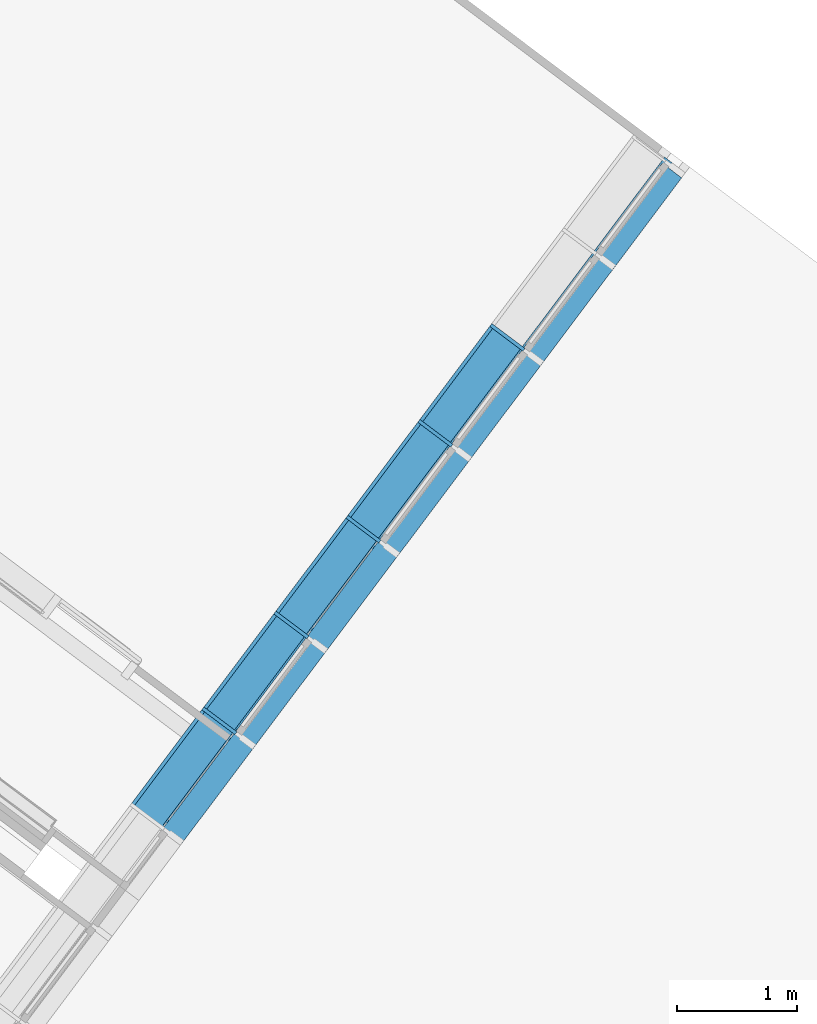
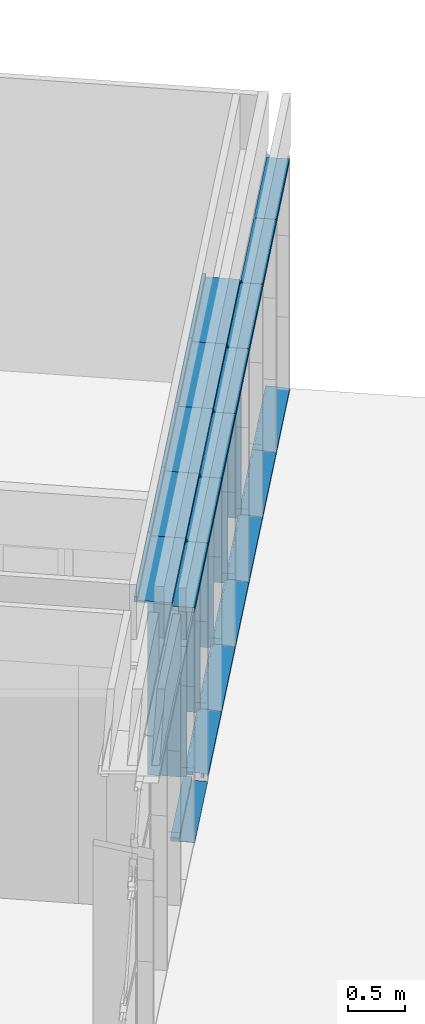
# One storey, part 73 of 243: 24 members, 2 elements without a shape of their own.
"""IFC2X3 building model written with IfcOpenShell, lengths in metres."""

from ifc_helpers import new_model, entity, si_unit, converted_unit, derived_unit, direction, frame, frame_2d, origin, place, context, subcontext, project, spatial, polyline, circle_curve, parameter, trimmed, segment, composite_curve, rectangle, outline, extrude, source, transform, mapped, material, type_object, type_shapes, element, aggregate, save


model = new_model("IFC2X3")

# Units and contexts
model_context = context("Model", 3, precision=1e-05, world=origin(), true_north=direction((6.123031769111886e-17, 1.0)))
body_context = subcontext(model_context, "Body", "Model", "MODEL_VIEW")
ifc_project = project(units=[si_unit("LENGTHUNIT", "METRE"), si_unit("AREAUNIT", "SQUARE_METRE"), si_unit("VOLUMEUNIT", "CUBIC_METRE"), converted_unit("PLANEANGLEUNIT", "DEGREE", entity("IfcRatioMeasure", 0.017453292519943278), si_unit("PLANEANGLEUNIT", "RADIAN"), dimensions=[0, 0, 0, 0, 0, 0, 0]), si_unit("MASSUNIT", "GRAM", prefix="KILO"), derived_unit("MASSDENSITYUNIT", [(si_unit("MASSUNIT", "GRAM", prefix="KILO"), 1), (si_unit("LENGTHUNIT", "METRE"), -3)]), derived_unit("IONCONCENTRATIONUNIT", [(si_unit("MASSUNIT", "GRAM", prefix="KILO"), 1), (si_unit("LENGTHUNIT", "METRE"), -3)]), derived_unit("MOMENTOFINERTIAUNIT", [(si_unit("LENGTHUNIT", "METRE"), 4)]), si_unit("TIMEUNIT", "SECOND"), si_unit("FREQUENCYUNIT", "HERTZ"), si_unit("THERMODYNAMICTEMPERATUREUNIT", "DEGREE_CELSIUS"), derived_unit("THERMALTRANSMITTANCEUNIT", [(si_unit("MASSUNIT", "GRAM", prefix="KILO"), 1), (si_unit("THERMODYNAMICTEMPERATUREUNIT", "KELVIN"), -1), (si_unit("TIMEUNIT", "SECOND"), -3)]), derived_unit("THERMALCONDUCTANCEUNIT", [(si_unit("MASSUNIT", "GRAM", prefix="KILO"), 1), (si_unit("THERMODYNAMICTEMPERATUREUNIT", "KELVIN"), -1), (si_unit("TIMEUNIT", "SECOND"), -3), (si_unit("LENGTHUNIT", "METRE"), 1)]), derived_unit("VOLUMETRICFLOWRATEUNIT", [(si_unit("LENGTHUNIT", "METRE"), 3), (si_unit("TIMEUNIT", "SECOND"), -1)]), derived_unit("MASSFLOWRATEUNIT", [(si_unit("MASSUNIT", "GRAM", prefix="KILO"), 1), (si_unit("TIMEUNIT", "SECOND"), -1)]), derived_unit("ROTATIONALFREQUENCYUNIT", [(si_unit("TIMEUNIT", "SECOND"), -1)]), si_unit("ELECTRICCURRENTUNIT", "AMPERE"), si_unit("ELECTRICVOLTAGEUNIT", "VOLT"), si_unit("POWERUNIT", "WATT"), si_unit("FORCEUNIT", "NEWTON", prefix="KILO"), si_unit("ILLUMINANCEUNIT", "LUX"), si_unit("LUMINOUSFLUXUNIT", "LUMEN"), si_unit("LUMINOUSINTENSITYUNIT", "CANDELA"), derived_unit("USERDEFINED", [(si_unit("MASSUNIT", "GRAM", prefix="KILO"), -1), (si_unit("LENGTHUNIT", "METRE"), -2), (si_unit("TIMEUNIT", "SECOND"), 3), (si_unit("LUMINOUSFLUXUNIT", "LUMEN"), 1)]), derived_unit("USERDEFINED", [(si_unit("MASSUNIT", "GRAM", prefix="KILO"), 1), (si_unit("TIMEUNIT", "SECOND"), -3), (si_unit("LENGTHUNIT", "METRE"), 3), (si_unit("ELECTRICCURRENTUNIT", "AMPERE"), -2)]), derived_unit("SOUNDPOWERUNIT", [(si_unit("MASSUNIT", "GRAM", prefix="KILO"), 1), (si_unit("TIMEUNIT", "SECOND"), -3), (si_unit("LENGTHUNIT", "METRE"), 2)]), derived_unit("SOUNDPRESSUREUNIT", [(si_unit("MASSUNIT", "GRAM", prefix="KILO"), 1), (si_unit("LENGTHUNIT", "METRE"), -1), (si_unit("TIMEUNIT", "SECOND"), -2)]), derived_unit("LINEARVELOCITYUNIT", [(si_unit("LENGTHUNIT", "METRE"), 1), (si_unit("TIMEUNIT", "SECOND"), -1)]), si_unit("PRESSUREUNIT", "PASCAL"), derived_unit("USERDEFINED", [(si_unit("MASSUNIT", "GRAM", prefix="KILO"), 1), (si_unit("LENGTHUNIT", "METRE"), -2), (si_unit("TIMEUNIT", "SECOND"), -2)]), derived_unit("LINEARFORCEUNIT", [(si_unit("MASSUNIT", "GRAM", prefix="KILO"), 1), (si_unit("TIMEUNIT", "SECOND"), -2)]), derived_unit("PLANARFORCEUNIT", [(si_unit("MASSUNIT", "GRAM", prefix="KILO"), 1), (si_unit("LENGTHUNIT", "METRE"), -1), (si_unit("TIMEUNIT", "SECOND"), -2)]), derived_unit("SPECIFICHEATCAPACITYUNIT", [(si_unit("THERMODYNAMICTEMPERATUREUNIT", "KELVIN"), -1), (si_unit("LENGTHUNIT", "METRE"), 2), (si_unit("TIMEUNIT", "SECOND"), -2)]), derived_unit("HEATINGVALUEUNIT", [(si_unit("LENGTHUNIT", "METRE"), 2), (si_unit("TIMEUNIT", "SECOND"), -2)]), derived_unit("VAPORPERMEABILITYUNIT", [(si_unit("LENGTHUNIT", "METRE"), -1), (si_unit("TIMEUNIT", "SECOND"), 1)]), derived_unit("DYNAMICVISCOSITYUNIT", [(si_unit("MASSUNIT", "GRAM", prefix="KILO"), 1), (si_unit("TIMEUNIT", "SECOND"), -1), (si_unit("LENGTHUNIT", "METRE"), -1)]), derived_unit("THERMALEXPANSIONCOEFFICIENTUNIT", [(si_unit("THERMODYNAMICTEMPERATUREUNIT", "KELVIN"), -1)]), derived_unit("MODULUSOFELASTICITYUNIT", [(si_unit("MASSUNIT", "GRAM", prefix="KILO"), 1), (si_unit("LENGTHUNIT", "METRE"), -1), (si_unit("TIMEUNIT", "SECOND"), -2)]), derived_unit("ISOTHERMALMOISTURECAPACITYUNIT", [(si_unit("LENGTHUNIT", "METRE"), 3), (si_unit("MASSUNIT", "GRAM", prefix="KILO"), -1)]), derived_unit("MOISTUREDIFFUSIVITYUNIT", [(si_unit("TIMEUNIT", "SECOND"), -1), (si_unit("LENGTHUNIT", "METRE"), 2)])], contexts=[model_context])

# Site, building, storey
site_placement = place(None, frame((0.0, 0.0, 235.0), z_axis=(0.0, 0.0, 1.0), x_axis=(-0.7996477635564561, 0.6004693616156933, 0.0)))
site = spatial("IfcSite", under=ifc_project, at=site_placement, Name="Default", CompositionType="ELEMENT")
building_placement = place(site_placement, origin())
building = spatial("IfcBuilding", under=site, at=building_placement, CompositionType="ELEMENT")
storey_placement = place(building_placement, origin())
storey = spatial("IfcBuildingStorey", under=building, at=storey_placement, Name="P0- Escola", CompositionType="ELEMENT", Elevation=0.0)

# Curtain wall, members
curtain_wall_type_1 = type_object("IfcCurtainWallType", Name="Muro cortina:MC- EXT- MC2", PredefinedType="NOTDEFINED")
curtain_wall_1_placement = place(storey_placement, origin())
curtain_wall_1 = element("IfcCurtainWall", 1, at=curtain_wall_1_placement, inside=storey, type_object=curtain_wall_type_1, Name="Muro cortina:MC- EXT- MC2", ObjectType="Muro cortina:MC- EXT- MC2")
ifc_material_1 = material(Name="_Alumini- T1- Perfil")
member_type_1 = type_object("IfcMemberType", Name="Montante rectangular:MC- Alu- 140x52,5 cm- Fa patis- Superior", PredefinedType="MULLION", material=ifc_material_1)
shared_shape_1 = source(origin(), body_context, "Body", "SweptSolid", [
    extrude(outline(polyline([(-0.11366666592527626, -0.021249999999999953), (0.026333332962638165, -0.021249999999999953), (0.026333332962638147, -0.010000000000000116), (0.0873333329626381, -0.010000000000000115), (0.0873333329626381, 0.03125000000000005), (-0.11366666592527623, 0.031250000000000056), (-0.11366666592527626, -0.021249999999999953)])), frame((-0.031250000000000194, 0.02733333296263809, -0.9374981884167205), z_axis=(0.0, 0.0, 1.0), x_axis=(0.0, -1.0, 0.0)), (0.0, 0.0, 1.0), 0.9374981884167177),
])
type_shapes(member_type_1, [shared_shape_1])
member_1_placement = place(curtain_wall_1_placement, frame((5.885147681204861, -41.92768994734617, 2.525), z_axis=(0.0, -1.0, 0.0), x_axis=(0.0, 0.0, 1.0)))
member_1 = element("IfcMember", 2, at=member_1_placement, type_object=member_type_1, material=ifc_material_1, Name="Montante rectangular:MC- Alu- 140x52,5 cm- Fa patis- Superior", ObjectType="Montante rectangular:MC- Alu- 140x52,5 cm- Fa patis- Superior", context=body_context, shape_type="MappedRepresentation", body=[
    mapped(shared_shape_1, transform((0.0, 0.0, 0.0), scale=1.0)),
])
member_type_2 = type_object("IfcMemberType", Name="Montante rectangular:MC- Alu- 140x52,5 cm- Fa patis- inferior porta reixa", PredefinedType="MULLION", material=ifc_material_1)
shared_shape_2 = source(origin(), body_context, "Body", "SweptSolid", [
    extrude(outline(polyline([(0.02123333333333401, -0.026000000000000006), (0.09753333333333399, -0.026000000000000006), (0.09753333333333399, 0.013999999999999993), (-0.11876666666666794, 0.013999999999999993), (-0.11876666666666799, 0.012000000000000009), (0.021233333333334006, 0.012000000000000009), (0.02123333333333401, -0.026000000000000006)])), frame((-0.01400000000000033, 0.02123333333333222, -0.947499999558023), z_axis=(0.0, 0.0, 1.0), x_axis=(0.0, -1.0, 0.0)), (0.0, 0.0, 1.0), 0.9474999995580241),
])
type_shapes(member_type_2, [shared_shape_2])
member_2_placement = place(curtain_wall_1_placement, frame((5.885147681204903, -35.01644175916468, -0.02), z_axis=(0.0, 1.0, 0.0), x_axis=(0.0, 0.0, -1.0)))
member_2 = element("IfcMember", 3, at=member_2_placement, type_object=member_type_2, material=ifc_material_1, Name="Montante rectangular:MC- Alu- 140x52,5 cm- Fa patis- inferior porta reixa", ObjectType="Montante rectangular:MC- Alu- 140x52,5 cm- Fa patis- inferior porta reixa", context=body_context, shape_type="MappedRepresentation", body=[
    mapped(shared_shape_2, transform((0.0, 0.0, 0.0), scale=1.0)),
])
member_type_3 = type_object("IfcMemberType", Name="Montante rectangular:MC- Alu- 140x52,5 cm- Fa patis- Superior", PredefinedType="MULLION", material=ifc_material_1)
shared_shape_3 = source(origin(), body_context, "Body", "SweptSolid", [
    extrude(outline(polyline([(-0.11366666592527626, -0.021249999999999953), (0.026333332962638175, -0.021249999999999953), (0.026333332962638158, -0.010000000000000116), (0.0873333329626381, -0.010000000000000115), (0.0873333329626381, 0.03125000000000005), (-0.11366666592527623, 0.031250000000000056), (-0.11366666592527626, -0.021249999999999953)])), frame((-0.031250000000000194, 0.0273333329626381, -1.0), z_axis=(0.0, 0.0, 1.0), x_axis=(0.0, -1.0, 0.0)), (0.0, 0.0, 1.0), 0.9999999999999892),
])
type_shapes(member_type_3, [shared_shape_3])
member_3_placement = place(curtain_wall_1_placement, frame((5.885147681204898, -35.990191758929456, 2.525), z_axis=(0.0, -1.0, 0.0), x_axis=(0.0, 0.0, 1.0)))
member_3 = element("IfcMember", 4, at=member_3_placement, type_object=member_type_3, material=ifc_material_1, Name="Montante rectangular:MC- Alu- 140x52,5 cm- Fa patis- Superior", ObjectType="Montante rectangular:MC- Alu- 140x52,5 cm- Fa patis- Superior", context=body_context, shape_type="MappedRepresentation", body=[
    mapped(shared_shape_3, transform((0.0, 0.0, 0.0), scale=1.0)),
])
member_4_placement = place(curtain_wall_1_placement, frame((5.8851476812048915, -36.99019175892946, 2.525), z_axis=(0.0, -1.0, 0.0), x_axis=(0.0, 0.0, 1.0)))
member_4 = element("IfcMember", 5, at=member_4_placement, type_object=member_type_3, material=ifc_material_1, Name="Montante rectangular:MC- Alu- 140x52,5 cm- Fa patis- Superior", ObjectType="Montante rectangular:MC- Alu- 140x52,5 cm- Fa patis- Superior", context=body_context, shape_type="MappedRepresentation", body=[
    mapped(shared_shape_3, transform((0.0, 0.0, 0.0), scale=1.0)),
])
member_5_placement = place(curtain_wall_1_placement, frame((5.885147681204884, -37.990191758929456, 2.525), z_axis=(0.0, -1.0, 0.0), x_axis=(0.0, 0.0, 1.0)))
member_5 = element("IfcMember", 6, at=member_5_placement, type_object=member_type_3, material=ifc_material_1, Name="Montante rectangular:MC- Alu- 140x52,5 cm- Fa patis- Superior", ObjectType="Montante rectangular:MC- Alu- 140x52,5 cm- Fa patis- Superior", context=body_context, shape_type="MappedRepresentation", body=[
    mapped(shared_shape_3, transform((0.0, 0.0, 0.0), scale=1.0)),
])
member_6_placement = place(curtain_wall_1_placement, frame((5.885147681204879, -38.990191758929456, 2.525), z_axis=(0.0, -1.0, 0.0), x_axis=(0.0, 0.0, 1.0)))
member_6 = element("IfcMember", 7, at=member_6_placement, type_object=member_type_3, material=ifc_material_1, Name="Montante rectangular:MC- Alu- 140x52,5 cm- Fa patis- Superior", ObjectType="Montante rectangular:MC- Alu- 140x52,5 cm- Fa patis- Superior", context=body_context, shape_type="MappedRepresentation", body=[
    mapped(shared_shape_3, transform((0.0, 0.0, 0.0), scale=1.0)),
])
member_7_placement = place(curtain_wall_1_placement, frame((5.885147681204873, -39.99019175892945, 2.525), z_axis=(0.0, -1.0, 0.0), x_axis=(0.0, 0.0, 1.0)))
member_7 = element("IfcMember", 8, at=member_7_placement, type_object=member_type_3, material=ifc_material_1, Name="Montante rectangular:MC- Alu- 140x52,5 cm- Fa patis- Superior", ObjectType="Montante rectangular:MC- Alu- 140x52,5 cm- Fa patis- Superior", context=body_context, shape_type="MappedRepresentation", body=[
    mapped(shared_shape_3, transform((0.0, 0.0, 0.0), scale=1.0)),
])
member_8_placement = place(curtain_wall_1_placement, frame((5.8851476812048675, -40.99019175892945, 2.525), z_axis=(0.0, -1.0, 0.0), x_axis=(0.0, 0.0, 1.0)))
member_8 = element("IfcMember", 9, at=member_8_placement, type_object=member_type_3, material=ifc_material_1, Name="Montante rectangular:MC- Alu- 140x52,5 cm- Fa patis- Superior", ObjectType="Montante rectangular:MC- Alu- 140x52,5 cm- Fa patis- Superior", context=body_context, shape_type="MappedRepresentation", body=[
    mapped(shared_shape_3, transform((0.0, 0.0, 0.0), scale=1.0)),
])
member_type_4 = type_object("IfcMemberType", Name="Montante rectangular:MC- Alu- 140x52,5 cm- Fa patis- inferior", PredefinedType="MULLION", material=ifc_material_1)
shared_shape_4 = source(origin(), body_context, "Body", "SweptSolid", [
    extrude(outline(composite_curve([segment(polyline([(0.1278672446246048, -0.02586710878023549), (0.14416724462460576, -0.025867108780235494)]), True, "CONTINUOUS"), segment(polyline([(0.14416724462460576, -0.025867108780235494), (0.1441672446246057, 0.009132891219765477)]), True, "CONTINUOUS"), segment(polyline([(0.1441672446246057, 0.009132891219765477), (0.06786724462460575, 0.009132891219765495)]), True, "CONTINUOUS"), segment(polyline([(0.06786724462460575, 0.009132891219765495), (0.06786724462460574, -0.021159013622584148)]), True, "CONTINUOUS"), segment(polyline([(0.06786724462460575, -0.02115901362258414), (-0.030132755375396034, -0.012332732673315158)]), True, "CONTINUOUS"), segment(polyline([(-0.03013275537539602, -0.012332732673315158), (-0.030132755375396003, 0.027132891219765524)]), True, "CONTINUOUS"), segment(polyline([(-0.030132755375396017, 0.02713289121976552), (-0.0021327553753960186, 0.02713289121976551)]), True, "CONTINUOUS"), segment(polyline([(-0.0021327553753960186, 0.027132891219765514), (-0.0021327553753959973, 0.029132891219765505)]), True, "CONTINUOUS"), segment(polyline([(-0.0021327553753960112, 0.029132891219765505), (-0.032132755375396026, 0.029132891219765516)]), True, "CONTINUOUS"), segment(polyline([(-0.032132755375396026, 0.029132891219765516), (-0.03213275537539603, -0.012152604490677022)]), True, "CONTINUOUS"), segment(polyline([(-0.03213275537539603, -0.012152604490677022), (-0.0701327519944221, -0.008730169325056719)]), True, "CONTINUOUS"), segment(polyline([(-0.0701327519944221, -0.008730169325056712), (-0.0701327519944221, 0.005766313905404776)]), True, "CONTINUOUS"), segment(trimmed(circle_curve(frame_2d((-0.0696327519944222, 0.0057663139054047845), x_axis=(-1.0, 0.0)), 0.0004999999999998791), [parameter(269.999999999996)], [parameter(0.0)], True, "PARAMETER"), False, "CONTINUOUS"), segment(polyline([(-0.0696327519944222, 0.00626631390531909), (-0.06213275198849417, 0.006266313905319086)]), True, "CONTINUOUS"), segment(polyline([(-0.06213275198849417, 0.006266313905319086), (-0.06213275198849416, 0.008266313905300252)]), True, "CONTINUOUS"), segment(polyline([(-0.06213275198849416, 0.008266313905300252), (-0.07013275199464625, 0.008266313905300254)]), True, "CONTINUOUS"), segment(trimmed(circle_curve(frame_2d((-0.07013275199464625, 0.006266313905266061), x_axis=(0.0, 1.0)), 0.0020000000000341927), [parameter(0.0)], [parameter(90.00000002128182)], True, "PARAMETER"), True, "CONTINUOUS"), segment(polyline([(-0.07213275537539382, 0.006266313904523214), (-0.07213275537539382, -0.008730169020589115)]), True, "CONTINUOUS"), segment(trimmed(circle_curve(frame_2d((-0.07013275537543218, -0.008730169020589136), x_axis=(-1.0, 0.0)), 0.0019999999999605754), [parameter(0.0)], [parameter(84.85359280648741)], True, "PARAMETER"), True, "CONTINUOUS"), segment(polyline([(-0.07031215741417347, -0.01072210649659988), (0.06786724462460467, -0.023167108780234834)]), True, "CONTINUOUS"), segment(polyline([(0.06786724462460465, -0.023167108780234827), (0.12786724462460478, -0.023167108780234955)]), True, "CONTINUOUS"), segment(polyline([(0.12786724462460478, -0.023167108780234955), (0.1278672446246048, -0.02586710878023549)]), True, "CONTINUOUS")], self_intersect=False)), frame((-0.029132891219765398, 0.06786724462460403, -0.9737499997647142), z_axis=(0.0, 0.0, 1.0), x_axis=(0.0, -1.0, 0.0)), (0.0, 0.0, 1.0), 0.9737499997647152),
])
type_shapes(member_type_4, [shared_shape_4])
member_9_placement = place(curtain_wall_1_placement, frame((5.885147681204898, -36.01644175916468, -0.02), z_axis=(0.0, 1.0, 0.0), x_axis=(0.0, 0.0, -1.0)))
member_9 = element("IfcMember", 10, at=member_9_placement, type_object=member_type_4, material=ifc_material_1, Name="Montante rectangular:MC- Alu- 140x52,5 cm- Fa patis- inferior", ObjectType="Montante rectangular:MC- Alu- 140x52,5 cm- Fa patis- inferior", context=body_context, shape_type="MappedRepresentation", body=[
    mapped(shared_shape_4, transform((0.0, 0.0, 0.0), scale=1.0)),
])
member_type_5 = type_object("IfcMemberType", Name="Montante rectangular:MC- Alu- 140x52,5 cm- Fa patis- inferior", PredefinedType="MULLION", material=ifc_material_1)
shared_shape_5 = source(origin(), body_context, "Body", "SweptSolid", [
    extrude(outline(composite_curve([segment(polyline([(0.1278672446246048, -0.02586710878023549), (0.14416724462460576, -0.025867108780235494)]), True, "CONTINUOUS"), segment(polyline([(0.14416724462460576, -0.025867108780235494), (0.1441672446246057, 0.009132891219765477)]), True, "CONTINUOUS"), segment(polyline([(0.1441672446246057, 0.009132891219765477), (0.06786724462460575, 0.009132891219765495)]), True, "CONTINUOUS"), segment(polyline([(0.06786724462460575, 0.009132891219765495), (0.06786724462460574, -0.021159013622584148)]), True, "CONTINUOUS"), segment(polyline([(0.06786724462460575, -0.02115901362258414), (-0.030132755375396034, -0.012332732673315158)]), True, "CONTINUOUS"), segment(polyline([(-0.03013275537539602, -0.012332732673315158), (-0.030132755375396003, 0.027132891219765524)]), True, "CONTINUOUS"), segment(polyline([(-0.030132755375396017, 0.02713289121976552), (-0.0021327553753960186, 0.02713289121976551)]), True, "CONTINUOUS"), segment(polyline([(-0.0021327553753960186, 0.027132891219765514), (-0.0021327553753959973, 0.029132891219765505)]), True, "CONTINUOUS"), segment(polyline([(-0.0021327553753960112, 0.029132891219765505), (-0.032132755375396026, 0.029132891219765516)]), True, "CONTINUOUS"), segment(polyline([(-0.032132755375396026, 0.029132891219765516), (-0.03213275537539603, -0.012152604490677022)]), True, "CONTINUOUS"), segment(polyline([(-0.03213275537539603, -0.012152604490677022), (-0.0701327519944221, -0.008730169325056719)]), True, "CONTINUOUS"), segment(polyline([(-0.0701327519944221, -0.008730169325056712), (-0.0701327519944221, 0.005766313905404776)]), True, "CONTINUOUS"), segment(trimmed(circle_curve(frame_2d((-0.0696327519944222, 0.0057663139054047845), x_axis=(-1.0, 0.0)), 0.0004999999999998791), [parameter(269.999999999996)], [parameter(0.0)], True, "PARAMETER"), False, "CONTINUOUS"), segment(polyline([(-0.0696327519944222, 0.00626631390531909), (-0.06213275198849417, 0.006266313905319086)]), True, "CONTINUOUS"), segment(polyline([(-0.06213275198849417, 0.006266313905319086), (-0.06213275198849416, 0.008266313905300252)]), True, "CONTINUOUS"), segment(polyline([(-0.06213275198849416, 0.008266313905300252), (-0.07013275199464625, 0.008266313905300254)]), True, "CONTINUOUS"), segment(trimmed(circle_curve(frame_2d((-0.07013275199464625, 0.006266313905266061), x_axis=(0.0, 1.0)), 0.0020000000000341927), [parameter(0.0)], [parameter(90.00000002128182)], True, "PARAMETER"), True, "CONTINUOUS"), segment(polyline([(-0.07213275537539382, 0.006266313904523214), (-0.07213275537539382, -0.008730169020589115)]), True, "CONTINUOUS"), segment(trimmed(circle_curve(frame_2d((-0.07013275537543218, -0.008730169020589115), x_axis=(-1.0, 0.0)), 0.0019999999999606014), [parameter(0.0)], [parameter(84.8535928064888)], True, "PARAMETER"), True, "CONTINUOUS"), segment(polyline([(-0.07031215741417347, -0.01072210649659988), (0.06786724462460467, -0.023167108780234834)]), True, "CONTINUOUS"), segment(polyline([(0.06786724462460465, -0.023167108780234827), (0.12786724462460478, -0.023167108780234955)]), True, "CONTINUOUS"), segment(polyline([(0.12786724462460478, -0.023167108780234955), (0.1278672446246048, -0.02586710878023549)]), True, "CONTINUOUS")], self_intersect=False)), frame((-0.029132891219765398, 0.06786724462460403, -1.0), z_axis=(0.0, 0.0, 1.0), x_axis=(0.0, -1.0, 0.0)), (0.0, 0.0, 1.0), 0.9999999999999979),
])
type_shapes(member_type_5, [shared_shape_5])
member_10_placement = place(curtain_wall_1_placement, frame((5.8851476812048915, -36.99019175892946, -0.02), z_axis=(0.0, 1.0, 0.0), x_axis=(0.0, 0.0, -1.0)))
member_10 = element("IfcMember", 11, at=member_10_placement, type_object=member_type_5, material=ifc_material_1, Name="Montante rectangular:MC- Alu- 140x52,5 cm- Fa patis- inferior", ObjectType="Montante rectangular:MC- Alu- 140x52,5 cm- Fa patis- inferior", context=body_context, shape_type="MappedRepresentation", body=[
    mapped(shared_shape_5, transform((0.0, 0.0, 0.0), scale=1.0)),
])
member_11_placement = place(curtain_wall_1_placement, frame((5.885147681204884, -37.990191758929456, -0.02), z_axis=(0.0, 1.0, 0.0), x_axis=(0.0, 0.0, -1.0)))
member_11 = element("IfcMember", 12, at=member_11_placement, type_object=member_type_5, material=ifc_material_1, Name="Montante rectangular:MC- Alu- 140x52,5 cm- Fa patis- inferior", ObjectType="Montante rectangular:MC- Alu- 140x52,5 cm- Fa patis- inferior", context=body_context, shape_type="MappedRepresentation", body=[
    mapped(shared_shape_5, transform((0.0, 0.0, 0.0), scale=1.0)),
])
member_12_placement = place(curtain_wall_1_placement, frame((5.885147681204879, -38.990191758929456, -0.02), z_axis=(0.0, 1.0, 0.0), x_axis=(0.0, 0.0, -1.0)))
member_12 = element("IfcMember", 13, at=member_12_placement, type_object=member_type_5, material=ifc_material_1, Name="Montante rectangular:MC- Alu- 140x52,5 cm- Fa patis- inferior", ObjectType="Montante rectangular:MC- Alu- 140x52,5 cm- Fa patis- inferior", context=body_context, shape_type="MappedRepresentation", body=[
    mapped(shared_shape_5, transform((0.0, 0.0, 0.0), scale=1.0)),
])
member_13_placement = place(curtain_wall_1_placement, frame((5.885147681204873, -39.99019175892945, -0.02), z_axis=(0.0, 1.0, 0.0), x_axis=(0.0, 0.0, -1.0)))
member_13 = element("IfcMember", 14, at=member_13_placement, type_object=member_type_5, material=ifc_material_1, Name="Montante rectangular:MC- Alu- 140x52,5 cm- Fa patis- inferior", ObjectType="Montante rectangular:MC- Alu- 140x52,5 cm- Fa patis- inferior", context=body_context, shape_type="MappedRepresentation", body=[
    mapped(shared_shape_5, transform((0.0, 0.0, 0.0), scale=1.0)),
])
member_type_6 = type_object("IfcMemberType", Name="Montante rectangular:MC- Alu- 140x52,5 cm- Fa patis- inferior", PredefinedType="MULLION", material=ifc_material_1)
shared_shape_6 = source(origin(), body_context, "Body", "SweptSolid", [
    extrude(outline(composite_curve([segment(polyline([(0.12786724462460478, -0.02586710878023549), (0.14416724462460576, -0.025867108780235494)]), True, "CONTINUOUS"), segment(polyline([(0.14416724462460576, -0.025867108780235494), (0.14416724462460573, 0.009132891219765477)]), True, "CONTINUOUS"), segment(polyline([(0.14416724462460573, 0.009132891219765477), (0.06786724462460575, 0.009132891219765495)]), True, "CONTINUOUS"), segment(polyline([(0.06786724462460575, 0.009132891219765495), (0.06786724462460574, -0.021159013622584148)]), True, "CONTINUOUS"), segment(polyline([(0.06786724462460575, -0.02115901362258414), (-0.03013275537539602, -0.012332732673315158)]), True, "CONTINUOUS"), segment(polyline([(-0.030132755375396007, -0.012332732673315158), (-0.030132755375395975, 0.027132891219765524)]), True, "CONTINUOUS"), segment(polyline([(-0.030132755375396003, 0.02713289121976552), (-0.0021327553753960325, 0.02713289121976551)]), True, "CONTINUOUS"), segment(polyline([(-0.0021327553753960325, 0.027132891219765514), (-0.002132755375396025, 0.029132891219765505)]), True, "CONTINUOUS"), segment(polyline([(-0.002132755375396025, 0.029132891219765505), (-0.03213275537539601, 0.029132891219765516)]), True, "CONTINUOUS"), segment(polyline([(-0.03213275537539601, 0.029132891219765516), (-0.03213275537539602, -0.012152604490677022)]), True, "CONTINUOUS"), segment(polyline([(-0.03213275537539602, -0.012152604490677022), (-0.07013275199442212, -0.008730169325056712)]), True, "CONTINUOUS"), segment(polyline([(-0.07013275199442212, -0.008730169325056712), (-0.07013275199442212, 0.005766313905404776)]), True, "CONTINUOUS"), segment(trimmed(circle_curve(frame_2d((-0.0696327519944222, 0.005766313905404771), x_axis=(-1.0, 0.0)), 0.0004999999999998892), [parameter(269.99999999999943)], [parameter(0.0)], True, "PARAMETER"), False, "CONTINUOUS"), segment(polyline([(-0.0696327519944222, 0.00626631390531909), (-0.06213275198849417, 0.006266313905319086)]), True, "CONTINUOUS"), segment(polyline([(-0.06213275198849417, 0.006266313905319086), (-0.06213275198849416, 0.008266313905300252)]), True, "CONTINUOUS"), segment(polyline([(-0.06213275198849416, 0.008266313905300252), (-0.07013275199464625, 0.008266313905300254)]), True, "CONTINUOUS"), segment(trimmed(circle_curve(frame_2d((-0.07013275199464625, 0.00626631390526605), x_axis=(0.0, 1.0)), 0.002000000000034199), [parameter(0.0)], [parameter(90.00000002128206)], True, "PARAMETER"), True, "CONTINUOUS"), segment(polyline([(-0.07213275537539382, 0.006266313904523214), (-0.07213275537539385, -0.008730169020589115)]), True, "CONTINUOUS"), segment(trimmed(circle_curve(frame_2d((-0.07013275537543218, -0.008730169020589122), x_axis=(-1.0, 0.0)), 0.0019999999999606), [parameter(0.0)], [parameter(84.85359280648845)], True, "PARAMETER"), True, "CONTINUOUS"), segment(polyline([(-0.0703121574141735, -0.01072210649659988), (0.0678672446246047, -0.023167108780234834)]), True, "CONTINUOUS"), segment(polyline([(0.06786724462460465, -0.023167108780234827), (0.12786724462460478, -0.023167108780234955)]), True, "CONTINUOUS"), segment(polyline([(0.12786724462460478, -0.023167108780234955), (0.12786724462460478, -0.02586710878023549)]), True, "CONTINUOUS")], self_intersect=False)), frame((-0.029132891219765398, 0.06786724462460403, -0.9899981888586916), z_axis=(0.0, 0.0, 1.0), x_axis=(0.0, -1.0, 0.0)), (0.0, 0.0, 1.0), 0.9899981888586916),
])
type_shapes(member_type_6, [shared_shape_6])
member_14_placement = place(curtain_wall_1_placement, frame((5.8851476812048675, -40.99019175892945, -0.02), z_axis=(0.0, 1.0, 0.0), x_axis=(0.0, 0.0, -1.0)))
member_14 = element("IfcMember", 15, at=member_14_placement, type_object=member_type_6, material=ifc_material_1, Name="Montante rectangular:MC- Alu- 140x52,5 cm- Fa patis- inferior", ObjectType="Montante rectangular:MC- Alu- 140x52,5 cm- Fa patis- inferior", context=body_context, shape_type="MappedRepresentation", body=[
    mapped(shared_shape_6, transform((0.0, 0.0, 0.0), scale=1.0)),
])
aggregate(curtain_wall_1, [member_1, member_2, member_3, member_9, member_4, member_10, member_5, member_11, member_6, member_12, member_7, member_13, member_8, member_14])

curtain_wall_type_2 = type_object("IfcCurtainWallType", Name="Muro cortina:MC- INT- k7- Aules infantil", PredefinedType="NOTDEFINED")
curtain_wall_2_placement = place(storey_placement, origin())
curtain_wall_2 = element("IfcCurtainWall", 16, at=curtain_wall_2_placement, inside=storey, type_object=curtain_wall_type_2, Name="Muro cortina:MC- INT- k7- Aules infantil", ObjectType="Muro cortina:MC- INT- k7- Aules infantil")
ifc_material_2 = material(Name="_Fusta massisa- T1")
member_type_7 = type_object("IfcMemberType", Name="Montante rectangular:MC- Fusta- 35x3 cm- Pati aules- Remat superior", PredefinedType="MULLION", material=ifc_material_2)
shared_shape_7 = source(origin(), body_context, "Body", "SweptSolid", [
    extrude(outline(polyline([(-0.2133333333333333, -0.02666666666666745), (0.12166666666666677, -0.02666666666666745), (0.1216666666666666, 0.03333333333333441), (0.09166666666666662, 0.03333333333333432), (0.0916666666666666, -0.006666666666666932), (-0.21333333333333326, -0.006666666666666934), (-0.2133333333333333, -0.02666666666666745)])), frame((-0.033333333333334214, 0.026666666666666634, -1.0), z_axis=(0.0, 0.0, 1.0), x_axis=(0.0, -1.0, 0.0)), (0.0, 0.0, 1.0), 0.9999999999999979),
])
type_shapes(member_type_7, [shared_shape_7])
member_15_placement = place(curtain_wall_2_placement, frame((6.185147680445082, -39.990191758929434, 2.6), z_axis=(0.0, -1.0, 0.0), x_axis=(0.0, 0.0, 1.0)))
member_15 = element("IfcMember", 17, at=member_15_placement, type_object=member_type_7, material=ifc_material_2, Name="Montante rectangular:MC- Fusta- 35x3 cm- Pati aules- Remat superior", ObjectType="Montante rectangular:MC- Fusta- 35x3 cm- Pati aules- Remat superior", context=body_context, shape_type="MappedRepresentation", body=[
    mapped(shared_shape_7, transform((0.0, 0.0, 0.0), scale=1.0)),
])
member_16_placement = place(curtain_wall_2_placement, frame((6.185147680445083, -38.990191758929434, 2.6), z_axis=(0.0, -1.0, 0.0), x_axis=(0.0, 0.0, 1.0)))
member_16 = element("IfcMember", 18, at=member_16_placement, type_object=member_type_7, material=ifc_material_2, Name="Montante rectangular:MC- Fusta- 35x3 cm- Pati aules- Remat superior", ObjectType="Montante rectangular:MC- Fusta- 35x3 cm- Pati aules- Remat superior", context=body_context, shape_type="MappedRepresentation", body=[
    mapped(shared_shape_7, transform((0.0, 0.0, 0.0), scale=1.0)),
])
member_17_placement = place(curtain_wall_2_placement, frame((6.185147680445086, -37.99019175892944, 2.6), z_axis=(0.0, -1.0, 0.0), x_axis=(0.0, 0.0, 1.0)))
member_17 = element("IfcMember", 19, at=member_17_placement, type_object=member_type_7, material=ifc_material_2, Name="Montante rectangular:MC- Fusta- 35x3 cm- Pati aules- Remat superior", ObjectType="Montante rectangular:MC- Fusta- 35x3 cm- Pati aules- Remat superior", context=body_context, shape_type="MappedRepresentation", body=[
    mapped(shared_shape_7, transform((0.0, 0.0, 0.0), scale=1.0)),
])
member_18_placement = place(curtain_wall_2_placement, frame((6.185147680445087, -36.99019175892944, 2.6), z_axis=(0.0, -1.0, 0.0), x_axis=(0.0, 0.0, 1.0)))
member_18 = element("IfcMember", 20, at=member_18_placement, type_object=member_type_7, material=ifc_material_2, Name="Montante rectangular:MC- Fusta- 35x3 cm- Pati aules- Remat superior", ObjectType="Montante rectangular:MC- Fusta- 35x3 cm- Pati aules- Remat superior", context=body_context, shape_type="MappedRepresentation", body=[
    mapped(shared_shape_7, transform((0.0, 0.0, 0.0), scale=1.0)),
])
member_19_placement = place(curtain_wall_2_placement, frame((6.185147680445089, -35.99019175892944, 2.6), z_axis=(0.0, -1.0, 0.0), x_axis=(0.0, 0.0, 1.0)))
member_19 = element("IfcMember", 21, at=member_19_placement, type_object=member_type_7, material=ifc_material_2, Name="Montante rectangular:MC- Fusta- 35x3 cm- Pati aules- Remat superior", ObjectType="Montante rectangular:MC- Fusta- 35x3 cm- Pati aules- Remat superior", context=body_context, shape_type="MappedRepresentation", body=[
    mapped(shared_shape_7, transform((0.0, 0.0, 0.0), scale=1.0)),
])
member_type_8 = type_object("IfcMemberType", Name="Montante rectangular:MC- Fusta- 35x3 cm- Centre", PredefinedType="MULLION", material=ifc_material_2)
shared_shape_8 = source(origin(), body_context, "Body", "SweptSolid", [
    extrude(rectangle(XDim=0.3450000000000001, YDim=0.030000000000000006, at=frame_2d((0.0, 1.3964523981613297e-16), x_axis=(1.0, 0.0))), frame((0.0, 0.07750000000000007, -2.5399999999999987), z_axis=(0.0, 0.0, 1.0), x_axis=(0.0, -1.0, 0.0)), (0.0, 0.0, 1.0), 2.5399999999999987),
])
type_shapes(member_type_8, [shared_shape_8])
member_20_placement = place(curtain_wall_2_placement, frame((6.185147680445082, -39.990191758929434, 0.0), z_axis=(0.0, 0.0, -1.0), x_axis=(0.0, -1.0, 0.0)))
member_20 = element("IfcMember", 22, at=member_20_placement, type_object=member_type_8, material=ifc_material_2, Name="Montante rectangular:MC- Fusta- 35x3 cm- Centre", ObjectType="Montante rectangular:MC- Fusta- 35x3 cm- Centre", context=body_context, shape_type="MappedRepresentation", body=[
    mapped(shared_shape_8, transform((0.0, 0.0, 0.0), scale=1.0)),
])
member_21_placement = place(curtain_wall_2_placement, frame((6.185147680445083, -38.990191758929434, 0.0), z_axis=(0.0, 0.0, -1.0), x_axis=(0.0, -1.0, 0.0)))
member_21 = element("IfcMember", 23, at=member_21_placement, type_object=member_type_8, material=ifc_material_2, Name="Montante rectangular:MC- Fusta- 35x3 cm- Centre", ObjectType="Montante rectangular:MC- Fusta- 35x3 cm- Centre", context=body_context, shape_type="MappedRepresentation", body=[
    mapped(shared_shape_8, transform((0.0, 0.0, 0.0), scale=1.0)),
])
member_22_placement = place(curtain_wall_2_placement, frame((6.185147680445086, -37.99019175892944, 0.0), z_axis=(0.0, 0.0, -1.0), x_axis=(0.0, -1.0, 0.0)))
member_22 = element("IfcMember", 24, at=member_22_placement, type_object=member_type_8, material=ifc_material_2, Name="Montante rectangular:MC- Fusta- 35x3 cm- Centre", ObjectType="Montante rectangular:MC- Fusta- 35x3 cm- Centre", context=body_context, shape_type="MappedRepresentation", body=[
    mapped(shared_shape_8, transform((0.0, 0.0, 0.0), scale=1.0)),
])
member_23_placement = place(curtain_wall_2_placement, frame((6.185147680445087, -36.99019175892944, 0.0), z_axis=(0.0, 0.0, -1.0), x_axis=(0.0, -1.0, 0.0)))
member_23 = element("IfcMember", 25, at=member_23_placement, type_object=member_type_8, material=ifc_material_2, Name="Montante rectangular:MC- Fusta- 35x3 cm- Centre", ObjectType="Montante rectangular:MC- Fusta- 35x3 cm- Centre", context=body_context, shape_type="MappedRepresentation", body=[
    mapped(shared_shape_8, transform((0.0, 0.0, 0.0), scale=1.0)),
])
member_24_placement = place(curtain_wall_2_placement, frame((6.185147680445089, -35.99019175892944, 0.0), z_axis=(0.0, 0.0, -1.0), x_axis=(0.0, -1.0, 0.0)))
member_24 = element("IfcMember", 26, at=member_24_placement, type_object=member_type_8, material=ifc_material_2, Name="Montante rectangular:MC- Fusta- 35x3 cm- Centre", ObjectType="Montante rectangular:MC- Fusta- 35x3 cm- Centre", context=body_context, shape_type="MappedRepresentation", body=[
    mapped(shared_shape_8, transform((0.0, 0.0, 0.0), scale=1.0)),
])
aggregate(curtain_wall_2, [member_15, member_20, member_16, member_21, member_17, member_22, member_18, member_23, member_19, member_24])

save(model, "model.ifc")
